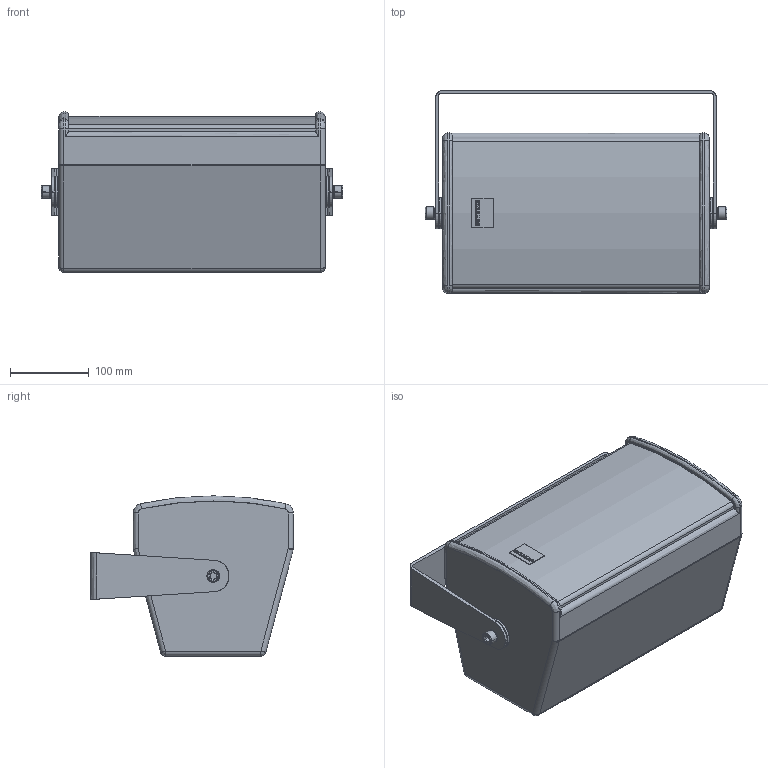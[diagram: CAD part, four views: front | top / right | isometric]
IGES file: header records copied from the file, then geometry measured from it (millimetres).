
Start section: SolidWorks IGES file using analytic representation for surfaces
Global section: file name: C:\Dokumente und Einstellungen\PC_Fabian\Desktop\3d_Dateien_Homepage\A-Serie\SEEBURG_A1_Bracket-hor.IGS; native system: SolidWorks 2009; preprocessor: SolidWorks 2009; author: PC_Fabian; date: 120927.151332; units: millimetre
Bounding box: 384.07 x 258 x 204 mm (x, y, z)
Surface area: 782699.1 mm2 (no closed solid volume)
Topology: 0 solids, 0 shells, 418 faces, 4474 edges, 4472 vertices
Faces by surface type: revolution 210, bspline 208
